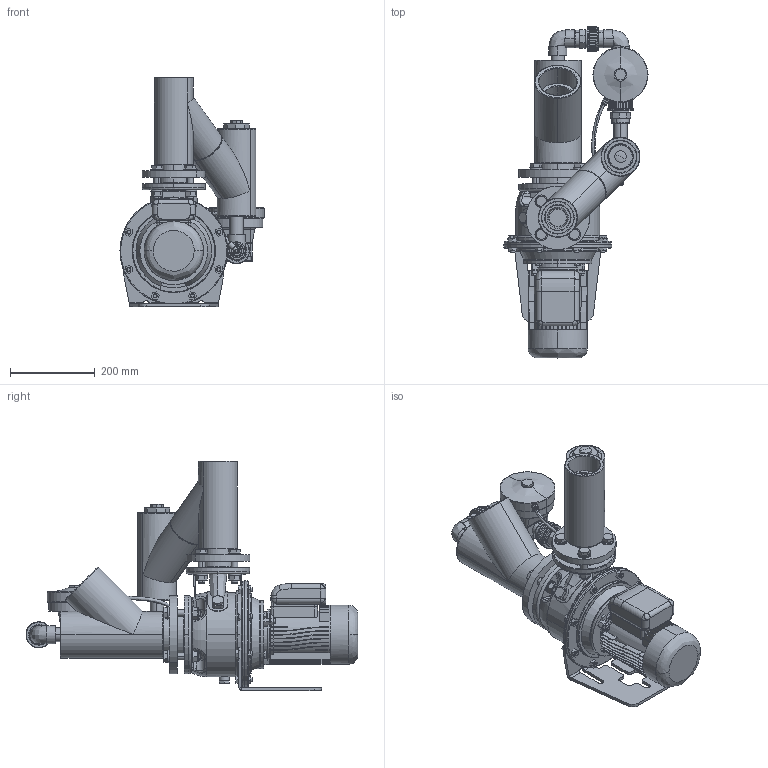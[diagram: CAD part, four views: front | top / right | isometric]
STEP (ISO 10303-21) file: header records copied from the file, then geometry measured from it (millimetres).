
FILE_DESCRIPTION (( 'STEP AP203' ), '1' );
FILE_NAME ('Lowara SHE 40-160 z.a.z auto. by-pass.STEP', '2011-04-06T09:41:01', ( '' ), ( '' ), 'SwSTEP 2.0', 'SolidWorks 2010', '' );
FILE_SCHEMA (( 'CONFIG_CONTROL_DESIGN' ));
Length unit declared in the file: millimetre
Products named in the file (1): Lowara SHE 40-160 z.a.z auto. by-pass
Bounding box: 340 x 783.44 x 541.48 mm (x, y, z)
Volume: 14820668.8 mm3; surface area: 2006227.2 mm2
Topology: 68 solids, 70 shells, 2749 faces, 6881 edges, 4288 vertices
Faces by surface type: plane 1034, cylinder 887, cone 404, bspline 380, torus 44
Entity records: 107081 total; most frequent: CARTESIAN_POINT 43970, ORIENTED_EDGE 13556, DIRECTION 12793, EDGE_CURVE 6778, AXIS2_PLACEMENT_3D 5049, VERTEX_POINT 4288, EDGE_LOOP 3036, FACE_OUTER_BOUND 2749
